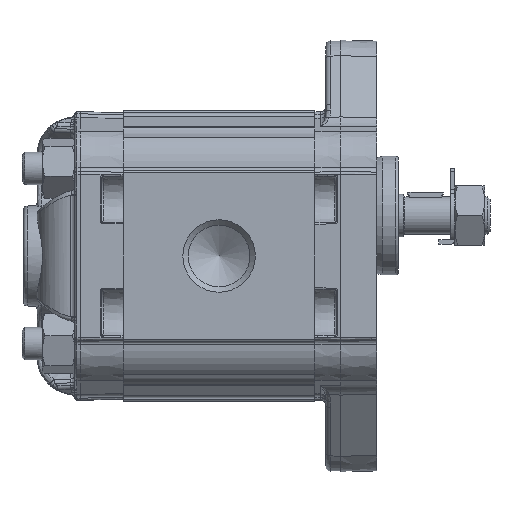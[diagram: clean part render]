
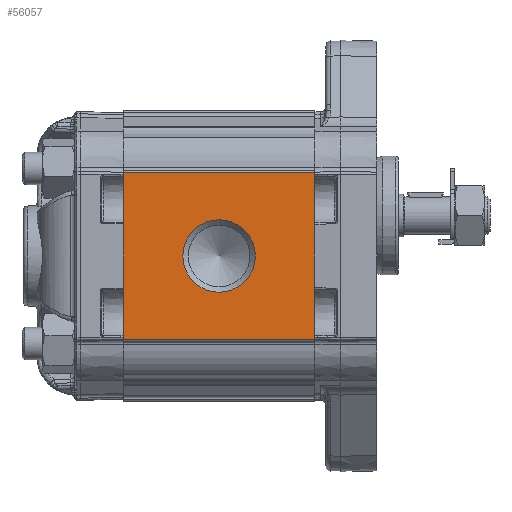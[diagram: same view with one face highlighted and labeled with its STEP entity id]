
A CAD part, left-side view. The second image highlights one B-rep face of the part: STEP entity #56057.
In plain terms, the highlighted planar face has unit normal (-1, 0, 0).
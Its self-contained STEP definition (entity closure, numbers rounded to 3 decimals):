
#3697=LINE('',#94630,#5646);
#3698=LINE('',#94634,#5647);
#3699=LINE('',#94636,#5648);
#3700=LINE('',#94638,#5649);
#5646=VECTOR('',#65832,1000.);
#5647=VECTOR('',#65837,1000.);
#5648=VECTOR('',#65838,1000.);
#5649=VECTOR('',#65839,1000.);
#7964=PLANE('',#59330);
#12336=ORIENTED_EDGE('',*,*,#22194,.T.);
#12337=ORIENTED_EDGE('',*,*,#22195,.F.);
#12338=ORIENTED_EDGE('',*,*,#22193,.F.);
#12339=ORIENTED_EDGE('',*,*,#22196,.T.);
#12340=ORIENTED_EDGE('',*,*,#22197,.T.);
#22193=EDGE_CURVE('',#27364,#27363,#3697,.T.);
#22194=EDGE_CURVE('',#27365,#27365,#30364,.F.);
#22195=EDGE_CURVE('',#27363,#27366,#3698,.T.);
#22196=EDGE_CURVE('',#27364,#27367,#3699,.T.);
#22197=EDGE_CURVE('',#27367,#27366,#3700,.T.);
#27363=VERTEX_POINT('',#94627);
#27364=VERTEX_POINT('',#94629);
#27365=VERTEX_POINT('',#94633);
#27366=VERTEX_POINT('',#94635);
#27367=VERTEX_POINT('',#94637);
#30364=CIRCLE('',#59331,6.723);
#32493=EDGE_LOOP('',(#12336));
#32494=EDGE_LOOP('',(#12337,#12338,#12339,#12340));
#35311=FACE_BOUND('',#32493,.T.);
#35312=FACE_BOUND('',#32494,.T.);
#56057=ADVANCED_FACE('',(#35311,#35312),#7964,.T.);
#59330=AXIS2_PLACEMENT_3D('',#94631,#65833,#65834);
#59331=AXIS2_PLACEMENT_3D('',#94632,#65835,#65836);
#65832=DIRECTION('',(0.,-1.,0.));
#65833=DIRECTION('',(-1.,0.,0.));
#65834=DIRECTION('',(0.,0.,1.));
#65835=DIRECTION('',(-1.,0.,0.));
#65836=DIRECTION('',(0.,0.,1.));
#65837=DIRECTION('',(0.,0.,-1.));
#65838=DIRECTION('',(0.,0.,-1.));
#65839=DIRECTION('',(0.,-1.,0.));
#94627=CARTESIAN_POINT('',(-25.,0.,15.418));
#94629=CARTESIAN_POINT('',(-25.,35.5,15.418));
#94630=CARTESIAN_POINT('',(-25.,35.5,15.418));
#94631=CARTESIAN_POINT('',(-25.,35.5,15.418));
#94632=CARTESIAN_POINT('',(-25.,17.75,0.));
#94633=CARTESIAN_POINT('',(-25.,17.75,6.723));
#94634=CARTESIAN_POINT('',(-25.,0.,15.418));
#94635=CARTESIAN_POINT('',(-25.,0.,-15.418));
#94636=CARTESIAN_POINT('',(-25.,35.5,15.418));
#94637=CARTESIAN_POINT('',(-25.,35.5,-15.418));
#94638=CARTESIAN_POINT('',(-25.,35.5,-15.418));
